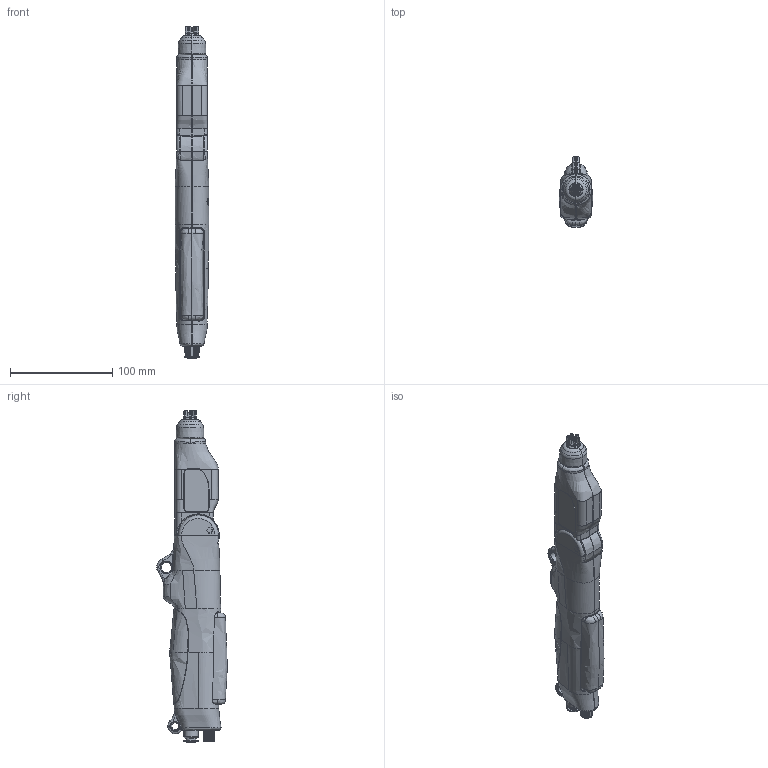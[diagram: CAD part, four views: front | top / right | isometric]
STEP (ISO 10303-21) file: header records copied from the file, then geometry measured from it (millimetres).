
FILE_DESCRIPTION (( 'STEP AP214' ), '1' );
FILE_NAME ('CleanflexEasy_PullDown_3D_GB.STEP', '2021-07-21T07:52:00', ( '' ), ( '' ), 'SwSTEP 2.0', 'SolidWorks 2021', '' );
FILE_SCHEMA (( 'AUTOMOTIVE_DESIGN' ));
Length unit declared in the file: millimetre
Products named in the file (1): CleanflexEasy_PullDown_3D_GB
Bounding box: 33.12 x 68.97 x 325.23 mm (x, y, z)
Surface area: 55335.4 mm2 (no closed solid volume)
Topology: 0 solids, 51 shells, 807 faces, 3672 edges, 2873 vertices
Faces by surface type: bspline 240, cylinder 219, plane 183, torus 89, cone 66, sphere 10
Entity records: 77339 total; most frequent: CARTESIAN_POINT 42430, ORIENTED_EDGE 5430, DIRECTION 4396, EDGE_CURVE 3660, VERTEX_POINT 2873, AXIS2_PLACEMENT_3D 1733, B_SPLINE_CURVE_WITH_KNOTS 1524, CIRCLE 1165
